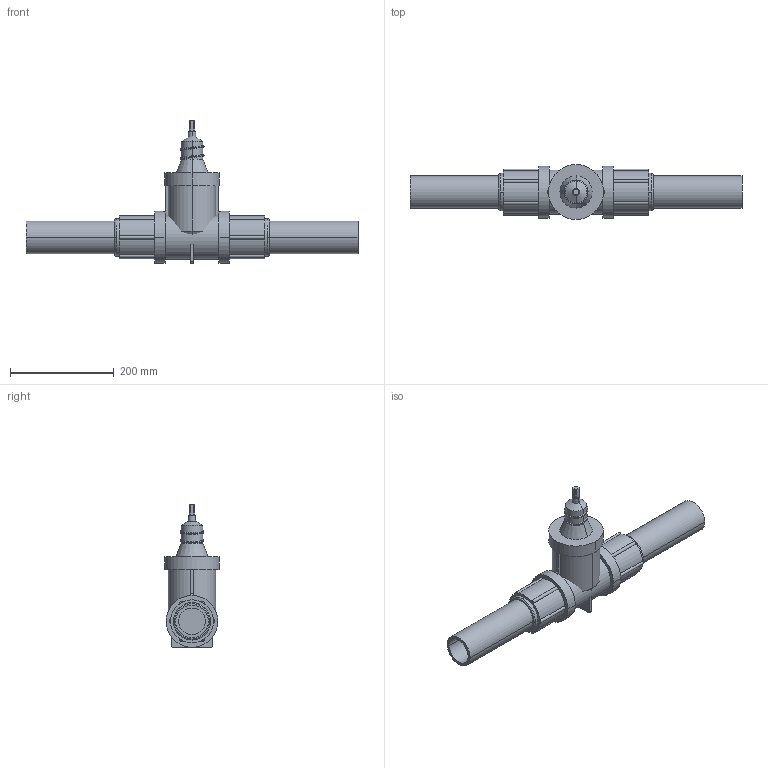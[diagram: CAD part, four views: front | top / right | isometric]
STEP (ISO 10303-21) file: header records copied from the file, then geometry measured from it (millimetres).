
FILE_DESCRIPTION(('STEP AP214'),'1');
FILE_NAME('S:/EK/USER/CAT6/3DHomepage/2670/2670-PN10-DN50.STP','2012-04-25T11:09:59',(' '),(' '),'Spatial InterOp 3D',' ',' ');
FILE_SCHEMA(('automotive_design'));
Length unit declared in the file: millimetre
Products named in the file (34): 3D-Objekt
Bounding box: 640 x 106 x 275 mm (x, y, z)
Volume: 3102773.7 mm3; surface area: 419021.9 mm2
Topology: 34 solids, 34 shells, 182 faces, 344 edges, 230 vertices
Faces by surface type: plane 102, cylinder 58, torus 16, cone 6
Entity records: 6906 total; most frequent: DIRECTION 954, CARTESIAN_POINT 790, ORIENTED_EDGE 688, AXIS2_PLACEMENT_3D 394, EDGE_CURVE 344, VERTEX_POINT 230, STYLED_ITEM 216, PRESENTATION_STYLE_ASSIGNMENT 216
